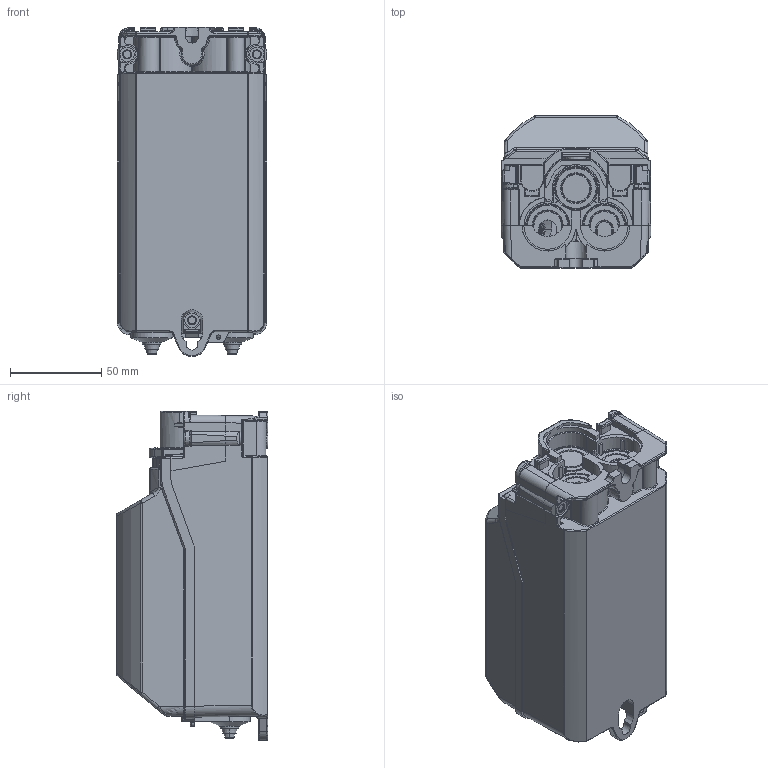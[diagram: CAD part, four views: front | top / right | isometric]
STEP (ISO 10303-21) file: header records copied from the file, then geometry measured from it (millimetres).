
FILE_DESCRIPTION (( 'STEP AP203' ), '1' );
FILE_NAME ('3D - HSW1809 Außenkontur.STEP', '2019-07-19T07:52:05', ( '' ), ( '' ), 'SwSTEP 2.0', 'SolidWorks 2013', '' );
FILE_SCHEMA (( 'CONFIG_CONTROL_DESIGN' ));
Products named in the file (1): 3D - HSW1809 Außenkontur
Bounding box: 82 x 83 x 180.02 mm (x, y, z)
Surface area: 73048 mm2 (no closed solid volume)
Topology: 0 solids, 31 shells, 1514 faces, 4843 edges, 3228 vertices
Faces by surface type: plane 596, cylinder 395, bspline 324, cone 79, torus 74, sphere 46
Entity records: 68158 total; most frequent: CARTESIAN_POINT 29634, ORIENTED_EDGE 8102, DIRECTION 7009, EDGE_CURVE 4791, VERTEX_POINT 3218, VECTOR 2567, LINE 2567, AXIS2_PLACEMENT_3D 2221
